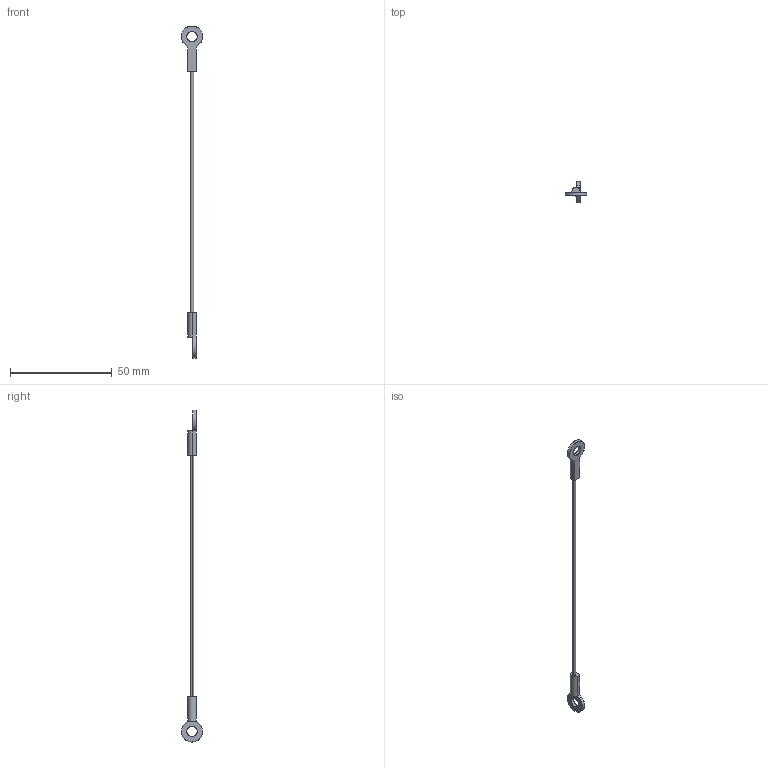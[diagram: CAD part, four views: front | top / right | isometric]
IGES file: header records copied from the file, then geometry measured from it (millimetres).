
Start section: SolidWorks IGES file using analytic representation for surfaces
Global section: file name: C:\Users\ianosborn\Desktop\LA1070_v2\LA1070_v2_20260323_IGES\LA1070.I06-152C1.igs; native system: SolidWorks 2019; preprocessor: SolidWorks 2019; author: IanOsborn; date: 260323.144910; units: millimetre
Bounding box: 10.4 x 10.4 x 162.81 mm (x, y, z)
Surface area: 1369 mm2 (no closed solid volume)
Topology: 0 solids, 0 shells, 27 faces, 460 edges, 460 vertices
Faces by surface type: bspline 16, revolution 11
